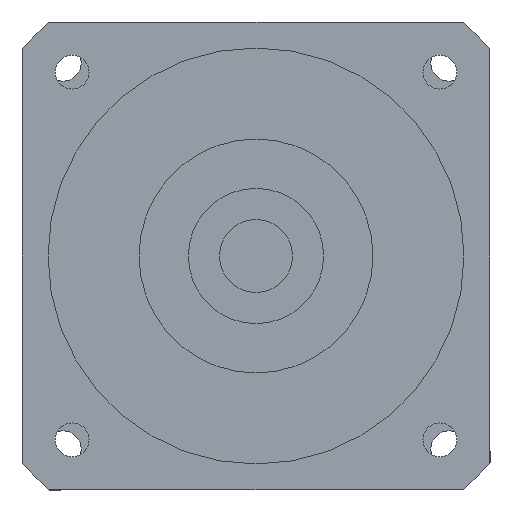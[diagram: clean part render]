
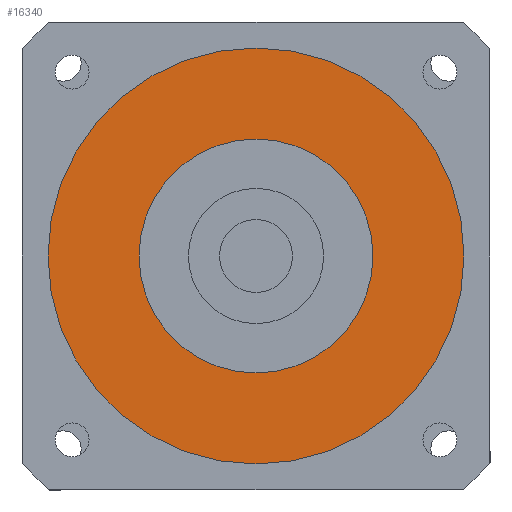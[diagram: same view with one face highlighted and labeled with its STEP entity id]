
A CAD part, left-side view. The second image highlights one B-rep face of the part: STEP entity #16340.
In plain terms, the highlighted planar face has unit normal (-1, 0, 0) as drawn and (0, 0, -1) by its records, which use the part's own axes.
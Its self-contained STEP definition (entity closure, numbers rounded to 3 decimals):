
#15730=CARTESIAN_POINT('',(0.,0.,
-114.));
#15740=DIRECTION('',(0.,0.,1.));
#15750=DIRECTION('',(0.,-1.,0.));
#15760=AXIS2_PLACEMENT_3D('',#15730,#15740,#15750);
#15770=CIRCLE('',#15760,22.5);
#15780=CARTESIAN_POINT('',(0.,-22.5,-114.));
#15790=VERTEX_POINT('',#15780);
#15800=CARTESIAN_POINT('',(22.5,0.,-114.));
#15810=VERTEX_POINT('',#15800);
#15820=EDGE_CURVE('',#15790,#15810,#15770,.T.);
#15950=CARTESIAN_POINT('',(-22.5,0.,-114.));
#15960=VERTEX_POINT('',#15950);
#15990=EDGE_CURVE('',#15960,#15790,#15770,.T.);
#16040=CARTESIAN_POINT('',(0.,0.,
-114.));
#16050=DIRECTION('',(0.,0.,1.));
#16060=DIRECTION('',(-1.,0.,0.));
#16070=AXIS2_PLACEMENT_3D('',#16040,#16050,#16060);
#16080=PLANE('',#16070);
#16090=CARTESIAN_POINT('',(0.,0.,
-114.));
#16100=DIRECTION('',(0.,0.,1.));
#16110=DIRECTION('',(0.,-1.,0.));
#16120=AXIS2_PLACEMENT_3D('',#16090,#16100,#16110);
#16130=CIRCLE('',#16120,40.);
#16140=CARTESIAN_POINT('',(0.,-40.,-114.));
#16150=VERTEX_POINT('',#16140);
#16160=CARTESIAN_POINT('',(40.,0.,-114.));
#16170=VERTEX_POINT('',#16160);
#16180=EDGE_CURVE('',#16150,#16170,#16130,.T.);
#16190=ORIENTED_EDGE('',*,*,#16180,.F.);
#16200=CARTESIAN_POINT('',(-40.,0.,-114.));
#16210=VERTEX_POINT('',#16200);
#16220=EDGE_CURVE('',#16170,#16210,#16130,.T.);
#16230=ORIENTED_EDGE('',*,*,#16220,.F.);
#16240=EDGE_CURVE('',#16210,#16150,#16130,.T.);
#16250=ORIENTED_EDGE('',*,*,#16240,.F.);
#16260=EDGE_LOOP('',(#16250,#16230,#16190));
#16270=FACE_OUTER_BOUND('',#16260,.T.);
#16280=EDGE_CURVE('',#15810,#15960,#15770,.T.);
#16290=ORIENTED_EDGE('',*,*,#16280,.T.);
#16300=ORIENTED_EDGE('',*,*,#15820,.T.);
#16310=ORIENTED_EDGE('',*,*,#15990,.T.);
#16320=EDGE_LOOP('',(#16310,#16300,#16290));
#16330=FACE_BOUND('',#16320,.T.);
#16340=ADVANCED_FACE('',(#16270,#16330),#16080,.F.);
